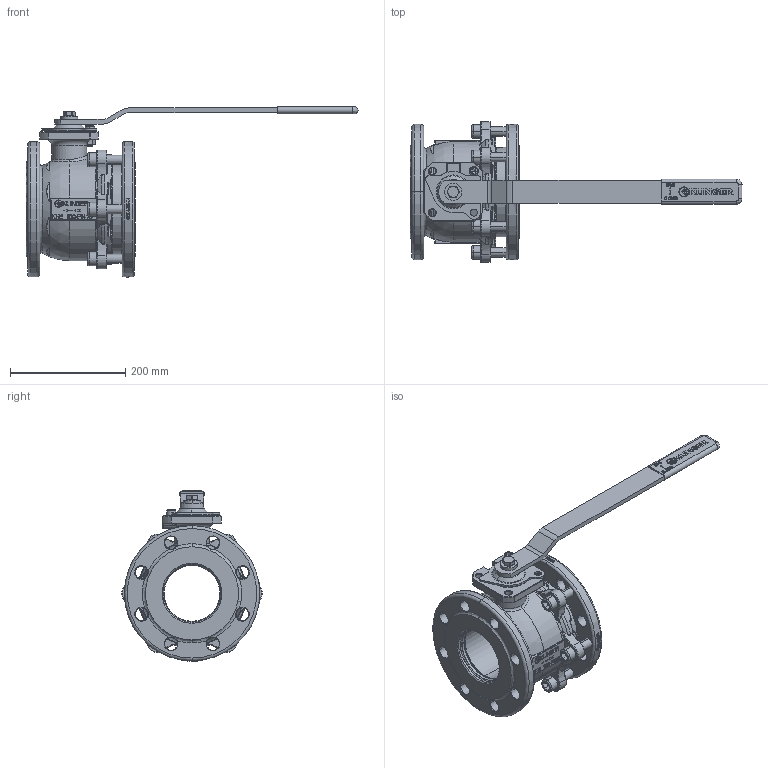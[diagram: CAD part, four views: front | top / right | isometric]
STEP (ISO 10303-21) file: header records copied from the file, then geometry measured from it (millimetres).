
FILE_DESCRIPTION((''),'2;1');
FILE_NAME('KHEFK100VFK100P040PKK','2015-08-07T',('mahrhauserh'),('RAND'),'PRO/ENGINEER BY PARAMETRIC TECHNOLOGY CORPORATION, 2013410','PRO/ENGINEER BY PARAMETRIC TECHNOLOGY CORPORATION, 2013410','');
FILE_SCHEMA(('CONFIG_CONTROL_DESIGN'));
Products named in the file (1): KHEFK100VFK100P040PKK
Bounding box: 577 x 244 x 296.2 mm (x, y, z)
Volume: 4013620.3 mm3; surface area: 667857 mm2
Topology: 1 solids, 2 shells, 3137 faces, 8312 edges, 5295 vertices
Faces by surface type: plane 1990, cylinder 434, torus 337, bspline 194, cone 134, sphere 48
Entity records: 130425 total; most frequent: CARTESIAN_POINT 53912, ORIENTED_EDGE 16596, DIRECTION 15106, EDGE_CURVE 8298, VERTEX_POINT 5295, AXIS2_PLACEMENT_3D 5040, VECTOR 5026, LINE 5026
